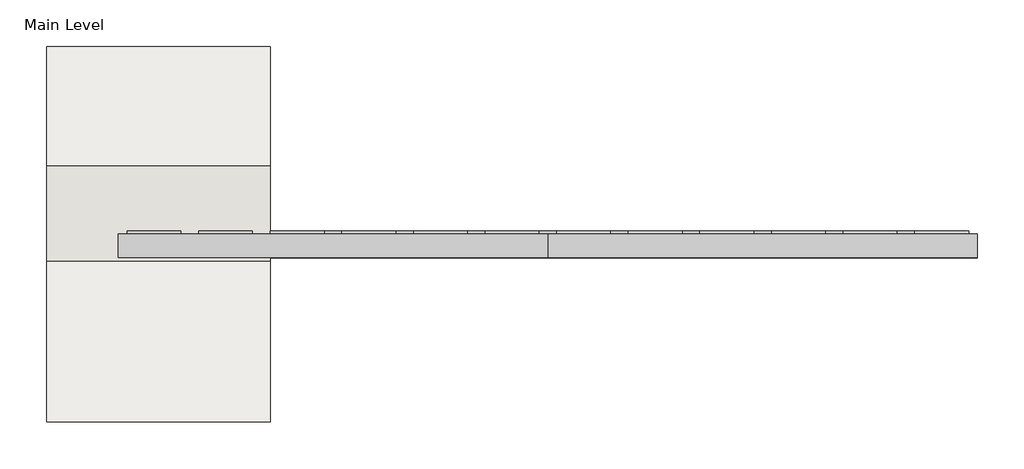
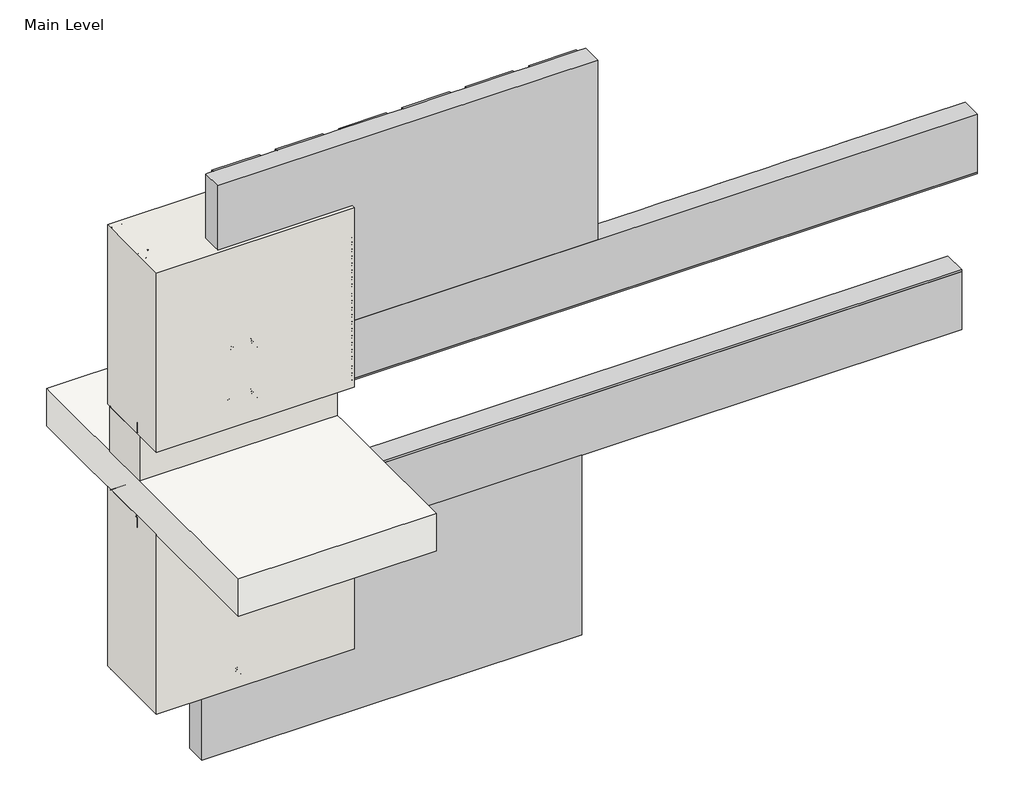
# One storey, incomplete: 32 proxies, 3 walls, 1 slab.
"""IFC4 building model written with IfcOpenShell, lengths in millimetres."""

from ifc_helpers import new_model, si_unit, frame, origin, origin_with_axes, place, context, project, spatial, polyline, outline, extrude, transform, mapped, element, save
from components import generic_models_31547c53, generic_models_0bbfdc8f, generic_models_1e1ad44f, generic_models_7dd17a53, generic_models_441de798, generic_models_9d0e7a2a, generic_models_8c792c9c, generic_models_03ec6e0e, proxy_4c3b85e5, proxy_215900e5, proxy_691c8b69, masonry_sill1_masonry_sill_ddc70cea, wood_blocking_45ac4bf3

model = new_model("IFC4")

# Units and contexts
model_context = context("Model", 3, world=origin())
ifc_project = project(units=[si_unit("LENGTHUNIT", "METRE", prefix="MILLI")], contexts=[model_context])

# Site, building, storey
site = spatial("IfcSite", under=ifc_project)
building = spatial("IfcBuilding", under=site)
storey = spatial("IfcBuildingStorey", under=building, Name="Main Level", Elevation=0.0)

# Proxies
placement = place(None, origin())
generic_models_shape = generic_models_31547c53(model_context)
element("IfcBuildingElementProxy", 1, Name="Durabond Generic Model Sealant Vent : Durabond Generic Model Sealant Vent", ObjectType="Durabond Generic Model Sealant Vent : Durabond Generic Model Sealant Vent", at=placement, inside=storey, context=model_context, shape_type="MappedRepresentation", body=[
    mapped(generic_models_shape, transform((26865.4101773, 546.8432813, 8.5594788), x_axis=(1.0, 0.0, 0.0), y_axis=(0.0, 0.08715574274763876, -0.9961946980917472), z_axis=(0.0, 0.9961946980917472, 0.08715574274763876))),
])
generic_models_2_shape = generic_models_0bbfdc8f(model_context)
generic_models_3_shape = generic_models_1e1ad44f(model_context)
generic_models_4_shape = generic_models_7dd17a53(model_context)
generic_models_5_shape = generic_models_441de798(model_context)
element("IfcBuildingElementProxy", 2, Name="CRAi Generic Model Mesh Piece Face Based : CRAi Generic Model Mesh Piece Face Based", ObjectType="CRAi Generic Model Mesh Piece Face Based : CRAi Generic Model Mesh Piece Face Based", at=placement, inside=storey, context=model_context, shape_type="MappedRepresentation", body=[
    mapped(generic_models_2_shape, transform((26933.6726773, 541.9066297, 261.6963215), x_axis=(-1.0, 0.0, 0.0), y_axis=(0.0, 0.0, -1.0), z_axis=(0.0, -1.0, 0.0))),
    mapped(generic_models_3_shape, transform((26933.6726773, 541.9066297, 261.6963215), x_axis=(-1.0, 0.0, 0.0), y_axis=(0.0, 0.0, -1.0), z_axis=(0.0, -1.0, 0.0))),
    mapped(generic_models_4_shape, transform((26933.6726773, 541.9066297, 261.6963215), x_axis=(-1.0, 0.0, 0.0), y_axis=(0.0, 0.0, -1.0), z_axis=(0.0, -1.0, 0.0))),
    mapped(generic_models_5_shape, transform((26933.6726773, 541.9066297, 261.6963215), x_axis=(-1.0, 0.0, 0.0), y_axis=(0.0, 0.0, -1.0), z_axis=(0.0, -1.0, 0.0))),
])
generic_models_6_shape = generic_models_9d0e7a2a(model_context)
element("IfcBuildingElementProxy", 3, Name="CRAi Generic Model Metal Stud Array : CRAi Generic Model Metal Stud Array", ObjectType="CRAi Generic Model Metal Stud Array : CRAi Generic Model Metal Stud Array", at=placement, inside=storey, context=model_context, shape_type="MappedRepresentation", body=[
    mapped(generic_models_6_shape, transform((26666.9726773, 719.7066297, 6.35), x_axis=(-1.0, 0.0, 0.0), y_axis=(0.0, -1.0, 0.0), z_axis=(0.0, 0.0, 1.0))),
])
element("IfcBuildingElementProxy", 4, Name="CRAi Generic Model Metal Stud Array : CRAi Generic Model Metal Stud Array", ObjectType="CRAi Generic Model Metal Stud Array : CRAi Generic Model Metal Stud Array", at=placement, inside=storey, context=model_context, shape_type="MappedRepresentation", body=[
    mapped(generic_models_6_shape, transform((26666.9726773, 719.7066297, -889.0), x_axis=(-1.0, 0.0, 0.0), y_axis=(0.0, -1.0, 0.0), z_axis=(0.0, 0.0, 1.0))),
])
generic_models_7_shape = generic_models_8c792c9c(model_context)
element("IfcBuildingElementProxy", 5, Name="Durabond Generic Model Screw w Standard Wall Plate : Durabond Generic Model Screw w Standard Wall Plate", ObjectType="Durabond Generic Model Screw w Standard Wall Plate : Durabond Generic Model Screw w Standard Wall Plate", at=placement, inside=storey, context=model_context, shape_type="MappedRepresentation", body=[
    mapped(generic_models_7_shape, transform((26666.9726773, 547.4628797, -361.95), x_axis=(1.0, 0.0, 0.0), y_axis=(0.0, 0.0, 1.0), z_axis=(0.0, -1.0, 0.0))),
])
element("IfcBuildingElementProxy", 6, Name="Durabond Generic Model Screw w Standard Wall Plate : Durabond Generic Model Screw w Standard Wall Plate", ObjectType="Durabond Generic Model Screw w Standard Wall Plate : Durabond Generic Model Screw w Standard Wall Plate", at=placement, inside=storey, context=model_context, shape_type="MappedRepresentation", body=[
    mapped(generic_models_7_shape, transform((26730.4726773, 544.2878797, -393.7), x_axis=(1.0, 0.0, 0.0), y_axis=(0.0, 0.0, 1.0), z_axis=(0.0, -1.0, 0.0))),
])
element("IfcBuildingElementProxy", 7, Name="Durabond Generic Model Screw w Standard Wall Plate : Durabond Generic Model Screw w Standard Wall Plate", ObjectType="Durabond Generic Model Screw w Standard Wall Plate : Durabond Generic Model Screw w Standard Wall Plate", at=placement, inside=storey, context=model_context, shape_type="MappedRepresentation", body=[
    mapped(generic_models_7_shape, transform((26730.4726773, 544.2878797, -533.4), x_axis=(1.0, 0.0, 0.0), y_axis=(0.0, 0.0, 1.0), z_axis=(0.0, -1.0, 0.0))),
])
element("IfcBuildingElementProxy", 8, Name="Durabond Generic Model Screw w Standard Wall Plate : Durabond Generic Model Screw w Standard Wall Plate", ObjectType="Durabond Generic Model Screw w Standard Wall Plate : Durabond Generic Model Screw w Standard Wall Plate", at=placement, inside=storey, context=model_context, shape_type="MappedRepresentation", body=[
    mapped(generic_models_7_shape, transform((26666.9726773, 547.4628797, -533.4), x_axis=(1.0, 0.0, 0.0), y_axis=(0.0, 0.0, 1.0), z_axis=(0.0, -1.0, 0.0))),
])
element("IfcBuildingElementProxy", 9, Name="Durabond Generic Model Screw w Standard Wall Plate : Durabond Generic Model Screw w Standard Wall Plate", ObjectType="Durabond Generic Model Screw w Standard Wall Plate : Durabond Generic Model Screw w Standard Wall Plate", at=placement, inside=storey, context=model_context, shape_type="MappedRepresentation", body=[
    mapped(generic_models_7_shape, transform((26730.4726773, 544.2878797, -838.2), x_axis=(1.0, 0.0, 0.0), y_axis=(0.0, 0.0, 1.0), z_axis=(0.0, -1.0, 0.0))),
])
element("IfcBuildingElementProxy", 10, Name="Durabond Generic Model Screw w Standard Wall Plate : Durabond Generic Model Screw w Standard Wall Plate", ObjectType="Durabond Generic Model Screw w Standard Wall Plate : Durabond Generic Model Screw w Standard Wall Plate", at=placement, inside=storey, context=model_context, shape_type="MappedRepresentation", body=[
    mapped(generic_models_7_shape, transform((26781.2726773, 544.2878797, 85.242643), x_axis=(1.0, 0.0, 0.0), y_axis=(0.0, 0.0, 1.0), z_axis=(0.0, -1.0, 0.0))),
])
element("IfcBuildingElementProxy", 11, Name="Durabond Generic Model Screw w Standard Wall Plate : Durabond Generic Model Screw w Standard Wall Plate", ObjectType="Durabond Generic Model Screw w Standard Wall Plate : Durabond Generic Model Screw w Standard Wall Plate", at=placement, inside=storey, context=model_context, shape_type="MappedRepresentation", body=[
    mapped(generic_models_7_shape, transform((26781.2726773, 544.2878797, 256.692643), x_axis=(1.0, 0.0, 0.0), y_axis=(0.0, 0.0, 1.0), z_axis=(0.0, -1.0, 0.0))),
])
element("IfcBuildingElementProxy", 12, Name="Durabond Generic Model Screw w Standard Wall Plate : Durabond Generic Model Screw w Standard Wall Plate", ObjectType="Durabond Generic Model Screw w Standard Wall Plate : Durabond Generic Model Screw w Standard Wall Plate", at=placement, inside=storey, context=model_context, shape_type="MappedRepresentation", body=[
    mapped(generic_models_7_shape, transform((26703.4851773, 547.4628797, 85.242643), x_axis=(1.0, 0.0, 0.0), y_axis=(0.0, 0.0, 1.0), z_axis=(0.0, -1.0, 0.0))),
])
element("IfcBuildingElementProxy", 13, Name="Durabond Generic Model Screw w Standard Wall Plate : Durabond Generic Model Screw w Standard Wall Plate", ObjectType="Durabond Generic Model Screw w Standard Wall Plate : Durabond Generic Model Screw w Standard Wall Plate", at=placement, inside=storey, context=model_context, shape_type="MappedRepresentation", body=[
    mapped(generic_models_7_shape, transform((26716.1851773, 547.4628797, 256.692643), x_axis=(1.0, 0.0, 0.0), y_axis=(0.0, 0.0, 1.0), z_axis=(0.0, -1.0, 0.0))),
])
generic_models_8_shape = generic_models_03ec6e0e(model_context)
element("IfcBuildingElementProxy", 14, Name="CRAi Generic Model Drywall Screw : CRAi Generic Model Drywall Screw", ObjectType="CRAi Generic Model Drywall Screw : CRAi Generic Model Drywall Screw", at=placement, inside=storey, context=model_context, shape_type="MappedRepresentation", body=[
    mapped(generic_models_8_shape, transform((26482.8226773, 627.6316297, 25.4), x_axis=(1.0, 0.0, 0.0), y_axis=(0.0, 0.0, 1.0), z_axis=(0.0, -1.0, 0.0))),
])
element("IfcBuildingElementProxy", 15, Name="CRAi Generic Model Drywall Screw : CRAi Generic Model Drywall Screw", ObjectType="CRAi Generic Model Drywall Screw : CRAi Generic Model Drywall Screw", at=placement, inside=storey, context=model_context, shape_type="MappedRepresentation", body=[
    mapped(generic_models_8_shape, transform((26482.8226773, 627.6316297, 215.9), x_axis=(1.0, 0.0, 0.0), y_axis=(0.0, 0.0, 1.0), z_axis=(0.0, -1.0, 0.0))),
])
element("IfcBuildingElementProxy", 16, Name="CRAi Generic Model Drywall Screw : CRAi Generic Model Drywall Screw", ObjectType="CRAi Generic Model Drywall Screw : CRAi Generic Model Drywall Screw", at=placement, inside=storey, context=model_context, shape_type="MappedRepresentation", body=[
    mapped(generic_models_8_shape, transform((26482.8226773, 627.6316297, 406.4), x_axis=(1.0, 0.0, 0.0), y_axis=(0.0, 0.0, 1.0), z_axis=(0.0, -1.0, 0.0))),
])
element("IfcBuildingElementProxy", 17, Name="CRAi Generic Model Drywall Screw : CRAi Generic Model Drywall Screw", ObjectType="CRAi Generic Model Drywall Screw : CRAi Generic Model Drywall Screw", at=placement, inside=storey, context=model_context, shape_type="MappedRepresentation", body=[
    mapped(generic_models_8_shape, transform((26482.8226773, 627.6316297, 596.9), x_axis=(1.0, 0.0, 0.0), y_axis=(0.0, 0.0, 1.0), z_axis=(0.0, -1.0, 0.0))),
])
element("IfcBuildingElementProxy", 18, Name="CRAi Generic Model Drywall Screw : CRAi Generic Model Drywall Screw", ObjectType="CRAi Generic Model Drywall Screw : CRAi Generic Model Drywall Screw", at=placement, inside=storey, context=model_context, shape_type="MappedRepresentation", body=[
    mapped(generic_models_8_shape, transform((26851.1226773, 627.6316297, 25.4), x_axis=(1.0, 0.0, 0.0), y_axis=(0.0, 0.0, 1.0), z_axis=(0.0, -1.0, 0.0))),
])
element("IfcBuildingElementProxy", 19, Name="CRAi Generic Model Drywall Screw : CRAi Generic Model Drywall Screw", ObjectType="CRAi Generic Model Drywall Screw : CRAi Generic Model Drywall Screw", at=placement, inside=storey, context=model_context, shape_type="MappedRepresentation", body=[
    mapped(generic_models_8_shape, transform((26851.1226773, 627.6316297, 215.9), x_axis=(1.0, 0.0, 0.0), y_axis=(0.0, 0.0, 1.0), z_axis=(0.0, -1.0, 0.0))),
])
element("IfcBuildingElementProxy", 20, Name="CRAi Generic Model Drywall Screw : CRAi Generic Model Drywall Screw", ObjectType="CRAi Generic Model Drywall Screw : CRAi Generic Model Drywall Screw", at=placement, inside=storey, context=model_context, shape_type="MappedRepresentation", body=[
    mapped(generic_models_8_shape, transform((26851.1226773, 627.6316297, 406.4), x_axis=(1.0, 0.0, 0.0), y_axis=(0.0, 0.0, 1.0), z_axis=(0.0, -1.0, 0.0))),
])
element("IfcBuildingElementProxy", 21, Name="CRAi Generic Model Drywall Screw : CRAi Generic Model Drywall Screw", ObjectType="CRAi Generic Model Drywall Screw : CRAi Generic Model Drywall Screw", at=placement, inside=storey, context=model_context, shape_type="MappedRepresentation", body=[
    mapped(generic_models_8_shape, transform((26851.1226773, 627.6316297, 596.9), x_axis=(1.0, 0.0, 0.0), y_axis=(0.0, 0.0, 1.0), z_axis=(0.0, -1.0, 0.0))),
])
element("IfcBuildingElementProxy", 22, Name="CRAi Generic Model Drywall Screw : CRAi Generic Model Drywall Screw", ObjectType="CRAi Generic Model Drywall Screw : CRAi Generic Model Drywall Screw", at=placement, inside=storey, context=model_context, shape_type="MappedRepresentation", body=[
    mapped(generic_models_8_shape, transform((26482.8226773, 627.6316297, -869.95), x_axis=(1.0, 0.0, 0.0), y_axis=(0.0, 0.0, 1.0), z_axis=(0.0, -1.0, 0.0))),
])
element("IfcBuildingElementProxy", 23, Name="CRAi Generic Model Drywall Screw : CRAi Generic Model Drywall Screw", ObjectType="CRAi Generic Model Drywall Screw : CRAi Generic Model Drywall Screw", at=placement, inside=storey, context=model_context, shape_type="MappedRepresentation", body=[
    mapped(generic_models_8_shape, transform((26482.8226773, 627.6316297, -679.45), x_axis=(1.0, 0.0, 0.0), y_axis=(0.0, 0.0, 1.0), z_axis=(0.0, -1.0, 0.0))),
])
element("IfcBuildingElementProxy", 24, Name="CRAi Generic Model Drywall Screw : CRAi Generic Model Drywall Screw", ObjectType="CRAi Generic Model Drywall Screw : CRAi Generic Model Drywall Screw", at=placement, inside=storey, context=model_context, shape_type="MappedRepresentation", body=[
    mapped(generic_models_8_shape, transform((26482.8226773, 627.6316297, -488.95), x_axis=(1.0, 0.0, 0.0), y_axis=(0.0, 0.0, 1.0), z_axis=(0.0, -1.0, 0.0))),
])
element("IfcBuildingElementProxy", 25, Name="CRAi Generic Model Drywall Screw : CRAi Generic Model Drywall Screw", ObjectType="CRAi Generic Model Drywall Screw : CRAi Generic Model Drywall Screw", at=placement, inside=storey, context=model_context, shape_type="MappedRepresentation", body=[
    mapped(generic_models_8_shape, transform((26482.8226773, 627.6316297, -298.45), x_axis=(1.0, 0.0, 0.0), y_axis=(0.0, 0.0, 1.0), z_axis=(0.0, -1.0, 0.0))),
])
proxy_shape = proxy_4c3b85e5(model_context)
element("IfcBuildingElementProxy", 26, Name="Durabond Generic Model Insulite Select Extruded Boundary Board : 3\"", ObjectType="Durabond Generic Model Insulite Select Extruded Boundary Board : 3\"", at=placement, inside=storey, context=model_context, shape_type="MappedRepresentation", body=[
    mapped(proxy_shape, transform((27835.3726773, 624.4566297, -393.7), x_axis=(-1.0, 0.0, 0.0), y_axis=(0.0, 0.0, -1.0), z_axis=(0.0, -1.0, 0.0))),
])
proxy_2_shape = proxy_215900e5(model_context)
element("IfcBuildingElementProxy", 27, Name="Durabond Generic Model Insulite Select Extruded Insulation Board : 3\"", ObjectType="Durabond Generic Model Insulite Select Extruded Insulation Board : 3\"", at=placement, inside=storey, context=model_context, shape_type="MappedRepresentation", body=[
    mapped(proxy_2_shape, transform((27276.5726773, 624.4566297, 523.392643), x_axis=(1.0, 0.0, 0.0), y_axis=(0.0, 0.0, 1.0), z_axis=(0.0, -1.0, 0.0))),
])
element("IfcBuildingElementProxy", 28, Name="Durabond Generic Model Insulite Select Extruded Insulation Board : 3\"", ObjectType="Durabond Generic Model Insulite Select Extruded Insulation Board : 3\"", at=placement, inside=storey, context=model_context, shape_type="MappedRepresentation", body=[
    mapped(proxy_2_shape, transform((27225.7726773, 624.4566297, -800.1), x_axis=(1.0, 0.0, 0.0), y_axis=(0.0, 0.0, 1.0), z_axis=(0.0, -1.0, 0.0))),
])
proxy_3_shape = proxy_691c8b69(model_context)
element("IfcBuildingElementProxy", 29, Name="Durabond Generic Model Insulite Select Extruded Vent Board : 3\"", ObjectType="Durabond Generic Model Insulite Select Extruded Vent Board : 3\"", at=placement, inside=storey, context=model_context, shape_type="MappedRepresentation", body=[
    mapped(proxy_3_shape, transform((27886.1726773, 624.4566297, 116.992643), x_axis=(1.0, 0.0, 0.0), y_axis=(0.0, 0.0, 1.0), z_axis=(0.0, -1.0, 0.0))),
])
masonry_sill1_masonry_sill_shape = masonry_sill1_masonry_sill_ddc70cea(model_context)
element("IfcBuildingElementProxy", 30, Name="Masonry Sill1 : Masonry Sill", ObjectType="Masonry Sill1 : Masonry Sill", at=placement, inside=storey, context=model_context, shape_type="MappedRepresentation", body=[
    mapped(masonry_sill1_masonry_sill_shape, transform((0.0, 0.0, 0.0), x_axis=(1.0, 0.0, 0.0), y_axis=(0.0, 1.0, 0.0), z_axis=(0.0, 0.0, 1.0))),
])
wood_blocking_shape = wood_blocking_45ac4bf3(model_context)
element("IfcBuildingElementProxy", 31, Name="CRAi Generic Model Line Based Metal Framing Track : Wood Blocking", ObjectType="CRAi Generic Model Line Based Metal Framing Track : Wood Blocking", at=placement, inside=storey, context=model_context, shape_type="MappedRepresentation", body=[
    mapped(wood_blocking_shape, transform((26463.7726773, 643.5066297, 0.0), x_axis=(1.0, 0.0, 0.0), y_axis=(0.0, 1.0, 0.0), z_axis=(0.0, 0.0, 1.0))),
])
element("IfcBuildingElementProxy", 32, Name="CRAi Generic Model Line Based Metal Framing Track : Wood Blocking", ObjectType="CRAi Generic Model Line Based Metal Framing Track : Wood Blocking", at=placement, inside=storey, context=model_context, shape_type="MappedRepresentation", body=[
    mapped(wood_blocking_shape, transform((26463.7726773, 795.9066297, -279.4), x_axis=(1.0, 0.0, 0.0), y_axis=(0.0, -1.0, 0.0), z_axis=(0.0, 0.0, -1.0))),
])

# Slab
element("IfcSlab", 33, ObjectType="CRAi Concrete Floor - 5\"", at=placement, inside=storey, context=model_context, shape_type="SweptSolid", body=[
    extrude(outline(polyline([(27098.7726773, 81.5316297), (26463.7726773, 81.5316297), (26463.7726773, 1148.3316297), (27098.7726773, 1148.3316297), (27098.7726773, 81.5316297)])), frame((0.0, 0.0, -279.4), z_axis=(0.0, 0.0, 1.0), x_axis=(1.0, 0.0, 0.0)), (0.0, 0.0, 1.0), 127.0),
])

# Walls
element("IfcWall", 34, ObjectType="189mm (7.5”) EIFS Field Applied on Mtl. Stud Layer - 50mm Grooved Insulation Board Metal Stud Wall(AirStop) 2", at=placement, inside=storey, context=model_context, shape_type="SweptSolid", body=[
    extrude(outline(polyline([(27098.7726773, 538.7316297), (26463.7726773, 538.7316297), (26463.7726773, 808.6066297), (27098.7726773, 808.6066297), (27098.7726773, 538.7316297)])), origin_with_axes(), (0.0, 0.0, 1.0), 609.6),
])
element("IfcWall", 35, ObjectType="Durabond 6\" Concrete Wall", at=placement, inside=storey, context=model_context, shape_type="SweptSolid", body=[
    extrude(outline(polyline([(27098.7726773, 630.8066297), (26463.7726773, 630.8066297), (26463.7726773, 795.9066297), (27098.7726773, 795.9066297), (27098.7726773, 630.8066297)])), frame((0.0, 0.0, -152.4), z_axis=(0.0, 0.0, 1.0), x_axis=(1.0, 0.0, 0.0)), (0.0, 0.0, 1.0), 152.4),
])
element("IfcWall", 36, ObjectType="189mm (7.5”) EIFS Field Applied on Mtl. Stud Layer - 50mm Grooved Insulation Board Metal Stud Wall(AirStop) 2", at=placement, inside=storey, context=model_context, shape_type="SweptSolid", body=[
    extrude(outline(polyline([(27098.7726773, 538.7316297), (26463.7726773, 538.7316297), (26463.7726773, 808.6066297), (27098.7726773, 808.6066297), (27098.7726773, 538.7316297)])), frame((0.0, 0.0, -889.0), z_axis=(0.0, 0.0, 1.0), x_axis=(1.0, 0.0, 0.0)), (0.0, 0.0, 1.0), 609.6),
])

save(model, "model.ifc")
